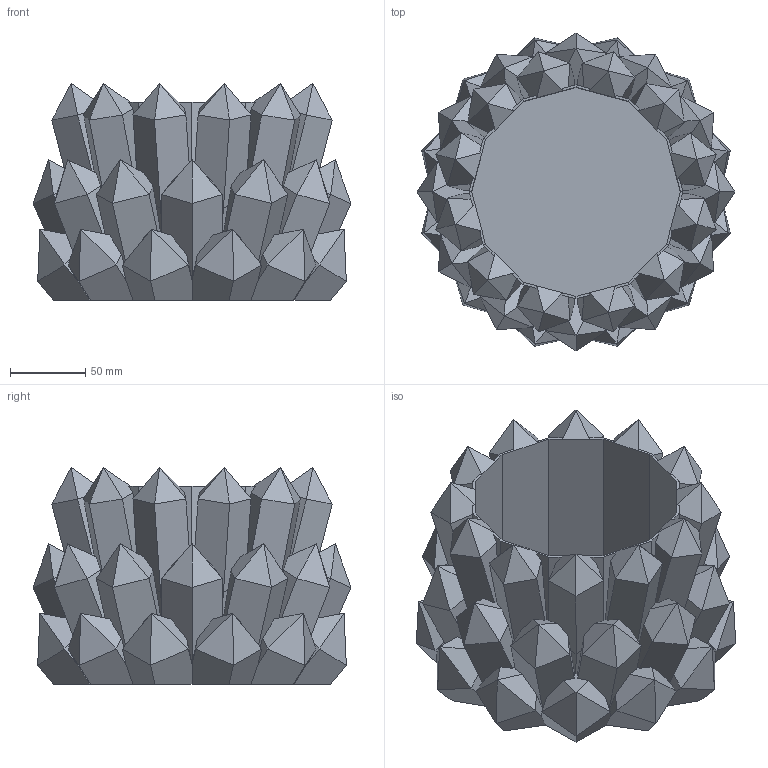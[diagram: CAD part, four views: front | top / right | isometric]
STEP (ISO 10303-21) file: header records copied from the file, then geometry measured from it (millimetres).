
FILE_DESCRIPTION(/* description */ (''),/* implementation_level */ '2;1');
FILE_NAME(/* name */ 'Crystalic pot 1',/* time_stamp */ '2026-02-24T16:12:37+01:00',/* author */ (''),/* organization */ (''),/* preprocessor_version */ 'ST-DEVELOPER v16.5',/* originating_system */ 'Rhino 7.21',/* authorisation */ '');
FILE_SCHEMA (('CONFIG_CONTROL_DESIGN'));
Length unit declared in the file: millimetre
Products named in the file (1): Document
Bounding box: 210.6 x 210.6 x 143.72 mm (x, y, z)
Volume: 1558540.2 mm3; surface area: 235687.4 mm2
Topology: 1 solids, 1 shells, 410 faces, 960 edges, 552 vertices
Faces by surface type: plane 410
Entity records: 10428 total; most frequent: CARTESIAN_POINT 3616, ORIENTED_EDGE 1920, EDGE_CURVE 960, B_SPLINE_CURVE_WITH_KNOTS 828, VERTEX_POINT 552, DIRECTION 414, AXIS2_PLACEMENT_3D 412, ADVANCED_FACE 410
